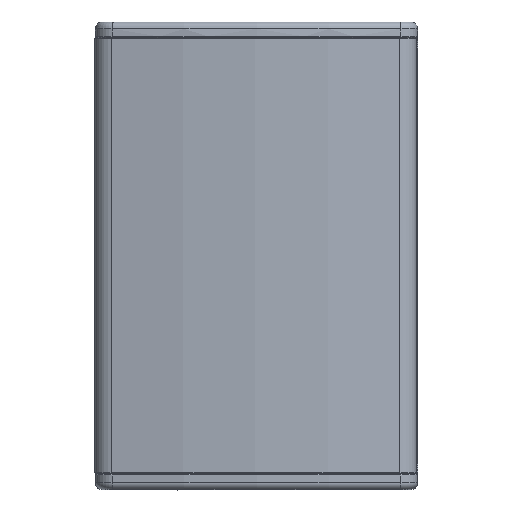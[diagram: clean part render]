
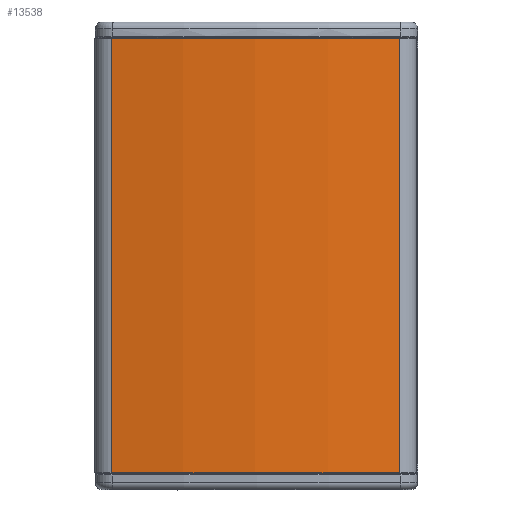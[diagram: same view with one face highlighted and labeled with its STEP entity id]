
A CAD part, top view. The second image highlights one B-rep face of the part: STEP entity #13538.
In plain terms, the highlighted cylindrical face has radius 697.5 mm (diameter 1395 mm), a partial arc.
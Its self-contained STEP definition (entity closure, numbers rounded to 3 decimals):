
#400 = EDGE_LOOP ( 'NONE', ( #15021, #15022, #15023, #15024 ) ) ;
#6441 = CARTESIAN_POINT ( 'NONE',  ( -203.914, 414.767, -14.987 ) ) ;
#6442 = DIRECTION ( 'NONE',  ( 0., -1., 0. ) ) ;
#6446 = CARTESIAN_POINT ( 'NONE',  ( -64.929, -3.233, -698.5 ) ) ;
#6447 = DIRECTION ( 'NONE',  ( 0., 1., 0. ) ) ;
#6448 = DIRECTION ( 'NONE',  ( 0., 0., 1. ) ) ;
#6449 = CARTESIAN_POINT ( 'NONE',  ( 74.057, 414.767, -14.987 ) ) ;
#6450 = DIRECTION ( 'NONE',  ( 0., -1., 0. ) ) ;
#6451 = CARTESIAN_POINT ( 'NONE',  ( -64.929, 414.767, -698.5 ) ) ;
#6452 = DIRECTION ( 'NONE',  ( 0., 1., 0. ) ) ;
#6453 = DIRECTION ( 'NONE',  ( 0., 0., 1. ) ) ;
#6917 = CARTESIAN_POINT ( 'NONE',  ( -203.914, 414.767, -14.987 ) ) ;
#6931 = CARTESIAN_POINT ( 'NONE',  ( -203.914, -3.233, -14.987 ) ) ;
#7228 = CARTESIAN_POINT ( 'NONE',  ( 74.057, -3.233, -14.987 ) ) ;
#7235 = CARTESIAN_POINT ( 'NONE',  ( 74.057, 414.767, -14.987 ) ) ;
#7455 = LINE ( 'NONE', #6441, #7457 ) ;
#7457 = VECTOR ( 'NONE', #6442, 1000. ) ;
#7459 = LINE ( 'NONE', #6449, #7461 ) ;
#7460 = CIRCLE ( 'NONE', #9546, 697.5 ) ;
#7461 = VECTOR ( 'NONE', #6450, 1000. ) ;
#7462 = CIRCLE ( 'NONE', #9547, 697.5 ) ;
#7830 = FACE_OUTER_BOUND ( 'NONE', #400, .T. ) ;
#7831 = CYLINDRICAL_SURFACE ( 'NONE', #11743, 697.5 ) ;
#9546 = AXIS2_PLACEMENT_3D ( 'NONE', #6446, #6447, #6448 ) ;
#9547 = AXIS2_PLACEMENT_3D ( 'NONE', #6451, #6452, #6453 ) ;
#10466 = EDGE_CURVE ( 'NONE', #11091, #11105, #7455, .T. ) ;
#10468 = EDGE_CURVE ( 'NONE', #11105, #11517, #7460, .T. ) ;
#10469 = EDGE_CURVE ( 'NONE', #11527, #11517, #7459, .T. ) ;
#10470 = EDGE_CURVE ( 'NONE', #11091, #11527, #7462, .T. ) ;
#11091 = VERTEX_POINT ( 'NONE', #6917 ) ;
#11105 = VERTEX_POINT ( 'NONE', #6931 ) ;
#11517 = VERTEX_POINT ( 'NONE', #7228 ) ;
#11527 = VERTEX_POINT ( 'NONE', #7235 ) ;
#11743 = AXIS2_PLACEMENT_3D ( 'NONE', #12641, #12642, #12643 ) ;
#12641 = CARTESIAN_POINT ( 'NONE',  ( -64.929, 414.767, -698.5 ) ) ;
#12642 = DIRECTION ( 'NONE',  ( 0., -1., 0. ) ) ;
#12643 = DIRECTION ( 'NONE',  ( 0., 0., -1. ) ) ;
#13538 = ADVANCED_FACE ( 'NONE', ( #7830 ), #7831, .T. ) ;
#15021 = ORIENTED_EDGE ( 'NONE', *, *, #10468, .T. ) ;
#15022 = ORIENTED_EDGE ( 'NONE', *, *, #10469, .F. ) ;
#15023 = ORIENTED_EDGE ( 'NONE', *, *, #10470, .F. ) ;
#15024 = ORIENTED_EDGE ( 'NONE', *, *, #10466, .T. ) ;
